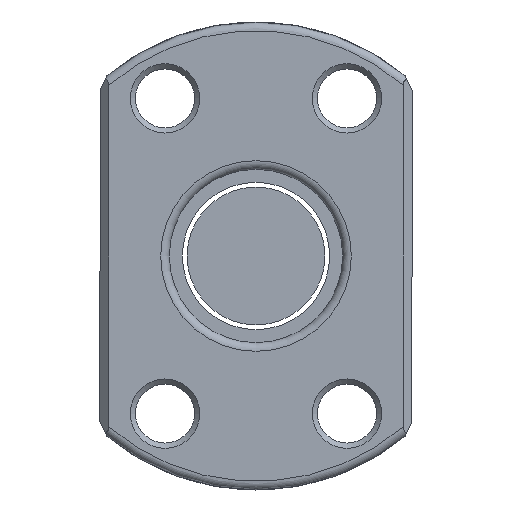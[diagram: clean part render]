
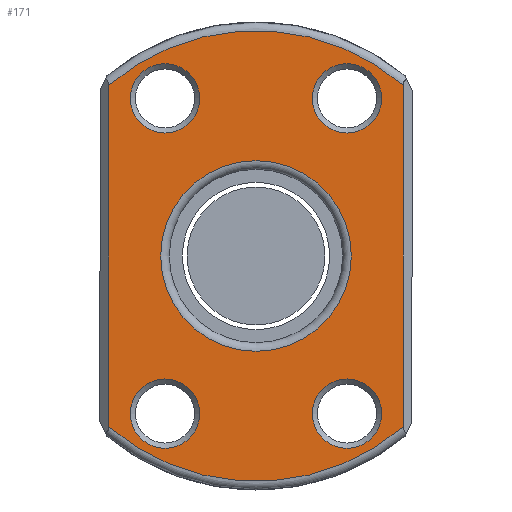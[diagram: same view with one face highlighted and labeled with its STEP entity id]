
A CAD part, front view. The second image highlights one B-rep face of the part: STEP entity #171.
In plain terms, the highlighted planar face has unit normal (0, -1, 0).
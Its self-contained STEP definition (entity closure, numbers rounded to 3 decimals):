
#68=LINE('',#1043,#92);
#69=LINE('',#1047,#93);
#92=VECTOR('',#856,1.);
#93=VECTOR('',#859,1.);
#128=PLANE('',#719);
#171=ADVANCED_FACE('',(#230,#231,#232,#233,#234,#235),#128,.T.);
#230=FACE_BOUND('',#294,.T.);
#231=FACE_BOUND('',#295,.T.);
#232=FACE_BOUND('',#296,.T.);
#233=FACE_BOUND('',#297,.T.);
#234=FACE_BOUND('',#298,.T.);
#235=FACE_BOUND('',#299,.T.);
#294=EDGE_LOOP('',(#385));
#295=EDGE_LOOP('',(#386));
#296=EDGE_LOOP('',(#387));
#297=EDGE_LOOP('',(#388));
#298=EDGE_LOOP('',(#389));
#299=EDGE_LOOP('',(#390,#391,#392,#393));
#385=ORIENTED_EDGE('',*,*,#598,.T.);
#386=ORIENTED_EDGE('',*,*,#599,.T.);
#387=ORIENTED_EDGE('',*,*,#600,.T.);
#388=ORIENTED_EDGE('',*,*,#601,.T.);
#389=ORIENTED_EDGE('',*,*,#602,.T.);
#390=ORIENTED_EDGE('',*,*,#603,.T.);
#391=ORIENTED_EDGE('',*,*,#604,.T.);
#392=ORIENTED_EDGE('',*,*,#605,.T.);
#393=ORIENTED_EDGE('',*,*,#606,.T.);
#537=VERTEX_POINT('',#1031);
#538=VERTEX_POINT('',#1033);
#539=VERTEX_POINT('',#1035);
#540=VERTEX_POINT('',#1037);
#541=VERTEX_POINT('',#1039);
#542=VERTEX_POINT('',#1041);
#543=VERTEX_POINT('',#1042);
#544=VERTEX_POINT('',#1044);
#545=VERTEX_POINT('',#1046);
#598=EDGE_CURVE('',#537,#537,#661,.T.);
#599=EDGE_CURVE('',#538,#538,#662,.T.);
#600=EDGE_CURVE('',#539,#539,#663,.T.);
#601=EDGE_CURVE('',#540,#540,#664,.T.);
#602=EDGE_CURVE('',#541,#541,#665,.T.);
#603=EDGE_CURVE('',#542,#543,#666,.T.);
#604=EDGE_CURVE('',#543,#544,#68,.T.);
#605=EDGE_CURVE('',#544,#545,#667,.T.);
#606=EDGE_CURVE('',#545,#542,#69,.T.);
#661=CIRCLE('',#712,5.5);
#662=CIRCLE('',#713,2.);
#663=CIRCLE('',#714,2.);
#664=CIRCLE('',#715,2.);
#665=CIRCLE('',#716,2.);
#666=CIRCLE('',#717,13.);
#667=CIRCLE('',#718,13.);
#712=AXIS2_PLACEMENT_3D('',#1030,#844,#845);
#713=AXIS2_PLACEMENT_3D('',#1032,#846,#847);
#714=AXIS2_PLACEMENT_3D('',#1034,#848,#849);
#715=AXIS2_PLACEMENT_3D('',#1036,#850,#851);
#716=AXIS2_PLACEMENT_3D('',#1038,#852,#853);
#717=AXIS2_PLACEMENT_3D('',#1040,#854,#855);
#718=AXIS2_PLACEMENT_3D('',#1045,#857,#858);
#719=AXIS2_PLACEMENT_3D('',#1048,#860,#861);
#844=DIRECTION('',(0.,1.,0.));
#845=DIRECTION('',(0.,0.,-1.));
#846=DIRECTION('',(0.,1.,0.));
#847=DIRECTION('',(0.,0.,-1.));
#848=DIRECTION('',(0.,1.,0.));
#849=DIRECTION('',(0.,0.,-1.));
#850=DIRECTION('',(0.,1.,0.));
#851=DIRECTION('',(0.,0.,-1.));
#852=DIRECTION('',(0.,1.,0.));
#853=DIRECTION('',(0.,0.,-1.));
#854=DIRECTION('',(0.,-1.,0.));
#855=DIRECTION('',(0.,0.,-1.));
#856=DIRECTION('',(0.,0.,1.));
#857=DIRECTION('',(0.,-1.,0.));
#858=DIRECTION('',(0.,0.,-1.));
#859=DIRECTION('',(0.,0.,-1.));
#860=DIRECTION('',(0.,-1.,0.));
#861=DIRECTION('',(0.,0.,-1.));
#1030=CARTESIAN_POINT('',(0.,0.,0.));
#1031=CARTESIAN_POINT('',(0.,0.,-5.5));
#1032=CARTESIAN_POINT('',(5.25,0.,-9.093));
#1033=CARTESIAN_POINT('',(5.25,0.,-11.093));
#1034=CARTESIAN_POINT('',(-5.25,0.,-9.093));
#1035=CARTESIAN_POINT('',(-5.25,0.,-11.093));
#1036=CARTESIAN_POINT('',(-5.25,0.,9.093));
#1037=CARTESIAN_POINT('',(-5.25,0.,7.093));
#1038=CARTESIAN_POINT('',(5.25,0.,9.093));
#1039=CARTESIAN_POINT('',(5.25,0.,7.093));
#1040=CARTESIAN_POINT('',(0.,0.,0.));
#1041=CARTESIAN_POINT('',(-8.5,0.,-9.836));
#1042=CARTESIAN_POINT('',(8.5,0.,-9.836));
#1043=CARTESIAN_POINT('',(8.5,0.,0.));
#1044=CARTESIAN_POINT('',(8.5,0.,9.836));
#1045=CARTESIAN_POINT('',(0.,0.,0.));
#1046=CARTESIAN_POINT('',(-8.5,0.,9.836));
#1047=CARTESIAN_POINT('',(-8.5,0.,0.));
#1048=CARTESIAN_POINT('',(0.,0.,0.));
